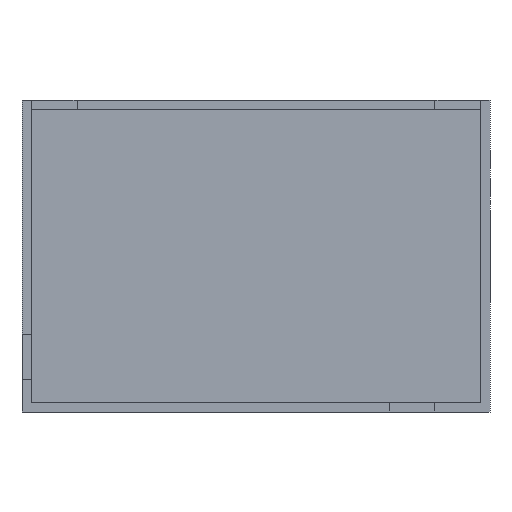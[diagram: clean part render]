
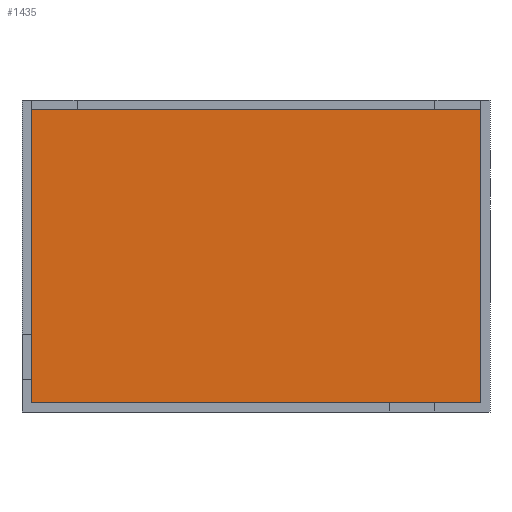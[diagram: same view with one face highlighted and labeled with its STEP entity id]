
A CAD part, front view. The second image highlights one B-rep face of the part: STEP entity #1435.
In plain terms, the highlighted planar face has unit normal (0, -1, 0).
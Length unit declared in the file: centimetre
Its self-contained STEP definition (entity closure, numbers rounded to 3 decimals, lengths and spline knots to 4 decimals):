
#243=FACE_OUTER_BOUND('',#321,.T.);
#321=EDGE_LOOP('',(#1304,#1305,#1306,#1307));
#353=LINE('',#1893,#527);
#442=LINE('',#2072,#616);
#468=LINE('',#2125,#642);
#495=LINE('',#2179,#669);
#527=VECTOR('',#1568,1.);
#616=VECTOR('',#1711,1.);
#642=VECTOR('',#1773,1.);
#669=VECTOR('',#1822,1.);
#696=VERTEX_POINT('',#1890);
#697=VERTEX_POINT('',#1892);
#760=VERTEX_POINT('',#2070);
#769=VERTEX_POINT('',#2124);
#817=EDGE_CURVE('',#697,#696,#353,.T.);
#906=EDGE_CURVE('',#696,#760,#442,.T.);
#932=EDGE_CURVE('',#769,#697,#468,.T.);
#959=EDGE_CURVE('',#760,#769,#495,.T.);
#1304=ORIENTED_EDGE('',*,*,#906,.T.);
#1305=ORIENTED_EDGE('',*,*,#959,.T.);
#1306=ORIENTED_EDGE('',*,*,#932,.T.);
#1307=ORIENTED_EDGE('',*,*,#817,.T.);
#1371=PLANE('',#1522);
#1435=ADVANCED_FACE('',(#243),#1371,.T.);
#1522=AXIS2_PLACEMENT_3D('',#2181,#1825,#1826);
#1568=DIRECTION('',(0.,0.,-1.));
#1711=DIRECTION('',(1.,0.,0.));
#1773=DIRECTION('',(-1.,0.,0.));
#1822=DIRECTION('',(0.,0.,1.));
#1825=DIRECTION('center_axis',(0.,-1.,0.));
#1826=DIRECTION('ref_axis',(0.,0.,-1.));
#1890=CARTESIAN_POINT('',(-9.,-1.,-16.5));
#1892=CARTESIAN_POINT('',(-9.,-1.,15.5));
#1893=CARTESIAN_POINT('',(-9.,-1.,-16.5));
#2070=CARTESIAN_POINT('',(40.,-1.,-16.5));
#2072=CARTESIAN_POINT('',(40.,-1.,-16.5));
#2124=CARTESIAN_POINT('',(40.,-1.,15.5));
#2125=CARTESIAN_POINT('',(-9.,-1.,15.5));
#2179=CARTESIAN_POINT('',(40.,-1.,15.5));
#2181=CARTESIAN_POINT('Origin',(15.5,-1.,-0.5));
